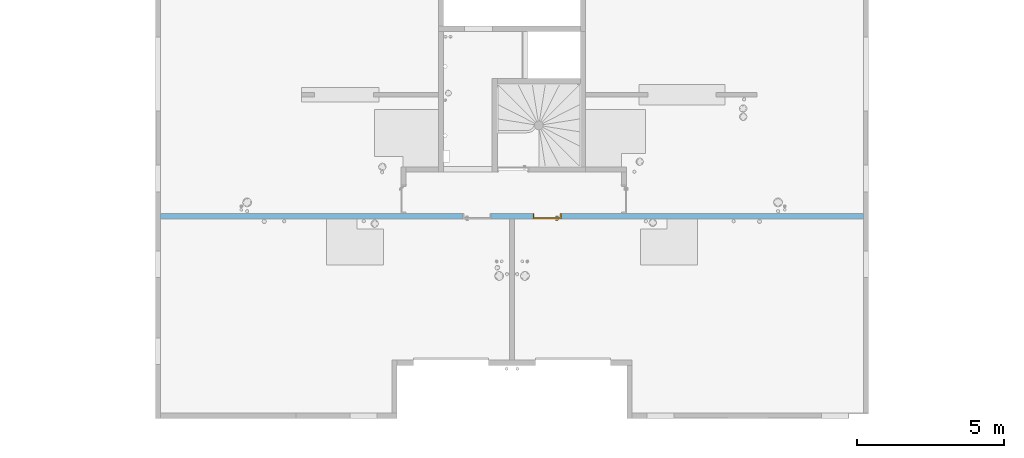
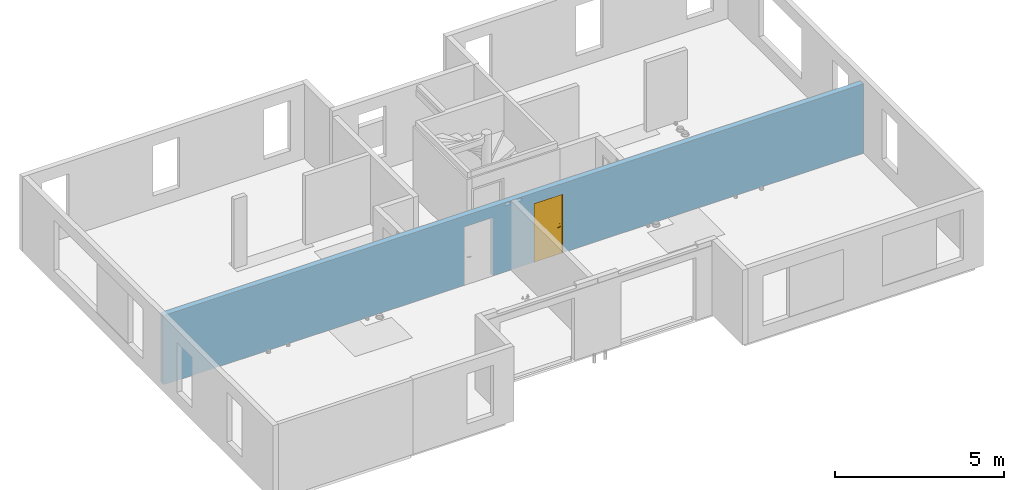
# One storey, part 9 of 24: 1 door, 6 openings, plus 1 element that does not belong to this part.
"""IFC2X3 building model written with IfcOpenShell, lengths in centimetres."""

from ifc_helpers import new_model, entity, si_unit, converted_unit, derived_unit, direction, frame, frame_2d, origin, place, context, subcontext, project, spatial, rectangle, extrude, faceted_brep, source, transform, mapped, material, material_list, layer, layer_set, layer_usage, type_object, type_shapes, element, fill, save


model = new_model("IFC2X3")

# Units and contexts
model_context = context("Model", 3, precision=0.001, world=origin(), true_north=direction((6.12303176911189e-17, 1.0)))
body_context = subcontext(model_context, "Body", "Model", "MODEL_VIEW")
ifc_project = project(units=[si_unit("LENGTHUNIT", "METRE", prefix="CENTI"), si_unit("AREAUNIT", "SQUARE_METRE"), si_unit("VOLUMEUNIT", "CUBIC_METRE"), converted_unit("PLANEANGLEUNIT", "DEGREE", entity("IfcRatioMeasure", 0.0174532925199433), si_unit("PLANEANGLEUNIT", "RADIAN"), dimensions=[0, 0, 0, 0, 0, 0, 0]), si_unit("MASSUNIT", "GRAM", prefix="KILO"), derived_unit("MASSDENSITYUNIT", [(si_unit("MASSUNIT", "GRAM", prefix="KILO"), 1), (si_unit("LENGTHUNIT", "METRE"), -3)]), si_unit("TIMEUNIT", "SECOND"), si_unit("FREQUENCYUNIT", "HERTZ"), si_unit("THERMODYNAMICTEMPERATUREUNIT", "DEGREE_CELSIUS"), derived_unit("THERMALTRANSMITTANCEUNIT", [(si_unit("MASSUNIT", "GRAM", prefix="KILO"), 1), (si_unit("THERMODYNAMICTEMPERATUREUNIT", "KELVIN"), -1), (si_unit("TIMEUNIT", "SECOND"), -3)]), derived_unit("VOLUMETRICFLOWRATEUNIT", [(si_unit("LENGTHUNIT", "METRE"), 3), (si_unit("TIMEUNIT", "SECOND"), -1)]), si_unit("ELECTRICCURRENTUNIT", "AMPERE"), si_unit("ELECTRICVOLTAGEUNIT", "VOLT"), si_unit("POWERUNIT", "WATT"), si_unit("FORCEUNIT", "NEWTON"), si_unit("ILLUMINANCEUNIT", "LUX"), si_unit("LUMINOUSFLUXUNIT", "LUMEN"), si_unit("LUMINOUSINTENSITYUNIT", "CANDELA"), derived_unit("USERDEFINED", [(si_unit("MASSUNIT", "GRAM", prefix="KILO"), -1), (si_unit("LENGTHUNIT", "METRE"), -2), (si_unit("TIMEUNIT", "SECOND"), 3), (si_unit("LUMINOUSFLUXUNIT", "LUMEN"), 1)]), derived_unit("LINEARVELOCITYUNIT", [(si_unit("LENGTHUNIT", "METRE"), 1), (si_unit("TIMEUNIT", "SECOND"), -1)]), si_unit("PRESSUREUNIT", "PASCAL"), derived_unit("USERDEFINED", [(si_unit("LENGTHUNIT", "METRE"), -2), (si_unit("MASSUNIT", "GRAM", prefix="KILO"), 1), (si_unit("TIMEUNIT", "SECOND"), -2)])], contexts=[model_context])

# Site, building, storey
site_placement = place(None, origin())
site = spatial("IfcSite", under=ifc_project, at=site_placement, Name="Default", CompositionType="ELEMENT")
building_placement = place(site_placement, origin())
building = spatial("IfcBuilding", under=site, at=building_placement, Name="CAGE 03", CompositionType="ELEMENT")
storey_placement = place(building_placement, frame((0.0, 0.0, 1150.0)))
storey = spatial("IfcBuildingStorey", under=building, at=storey_placement, Name="R+4", CompositionType="ELEMENT", Elevation=1150.0)

# Wall, openings, door
ifc_material_1 = material(Name="Béton, C25/30")
ifc_layer = layer(ifc_material_1, 18.0)
ifc_layer_set = layer_set([ifc_layer], Name="Mur de base:Voile BA 18")
ifc_layer_usage = layer_usage(ifc_layer_set, "AXIS2", "NEGATIVE", 9.0)
wall_type = type_object("IfcWallType", Name="Mur de base:Voile BA 18", PredefinedType="STANDARD", material=ifc_layer_set)
wall_placement = place(storey_placement, frame((5888.36582014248, 4483.6606660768, 0.0)))
wall = element("IfcWallStandardCase", 1, at=wall_placement, inside=storey, type_object=wall_type, material=ifc_layer_usage, Name="Mur de base:Voile BA 18", ObjectType="Mur de base:Voile BA 18", context=body_context, shape_type="SweptSolid", body=[
    extrude(rectangle(XDim=2385.99999999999, YDim=17.9999999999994, at=frame_2d((1193.0, -8.88178419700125e-16), x_axis=(-1.0, 0.0))), origin(), (0.0, 0.0, 1.0), 250.0),
])
opening_1_placement = place(wall_placement, origin())
element("IfcOpeningElement", 2, at=opening_1_placement, cuts=wall, Name="Mur de base:Voile BA 18", ObjectType="Opening", context=body_context, shape_type="SweptSolid", body=[
    extrude(rectangle(XDim=210.000000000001, YDim=18.0000000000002, at=frame_2d((4.33431068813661e-13, 0.0), x_axis=(0.0, 1.0))), frame((825.0, 9.0, 105.0), z_axis=(0.0, 1.0, 0.0), x_axis=(1.0, 0.0, 0.0)), (0.0, 0.0, 1.0), 96.9999999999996),
])
opening_2_placement = place(wall_placement, origin())
element("IfcOpeningElement", 3, at=opening_2_placement, cuts=wall, Name="Mur de base:Voile BA 18", ObjectType="Opening", context=body_context, shape_type="SweptSolid", body=[
    extrude(rectangle(XDim=210.000000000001, YDim=18.0000000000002, at=frame_2d((4.33431068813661e-13, 0.0), x_axis=(0.0, 1.0))), frame((1573.0, 9.0, 105.0), z_axis=(0.0, 1.0, 0.0), x_axis=(1.0, 0.0, 0.0)), (0.0, 0.0, 1.0), 96.9999999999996),
])
opening_3_placement = place(wall_placement, origin())
element("IfcOpeningElement", 4, at=opening_3_placement, cuts=wall, Name="Mur de base:Voile BA 18", ObjectType="Opening", context=body_context, shape_type="SweptSolid", body=[
    extrude(rectangle(XDim=10.0000000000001, YDim=19.9999999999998, at=frame_2d((4.33431068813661e-13, 1.08357767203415e-13), x_axis=(0.0, 1.0))), frame((1174.0, -9.0, 242.500000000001), z_axis=(0.0, 1.0, 0.0), x_axis=(1.0, 0.0, 0.0)), (0.0, 0.0, 1.0), 17.9999999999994),
])
opening_4_placement = place(wall_placement, origin())
element("IfcOpeningElement", 5, at=opening_4_placement, cuts=wall, Name="Mur de base:Voile BA 18", ObjectType="Opening", context=body_context, shape_type="SweptSolid", body=[
    extrude(rectangle(XDim=10.0000000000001, YDim=19.9999999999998, at=frame_2d((4.33431068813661e-13, 1.08357767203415e-13), x_axis=(0.0, 1.0))), frame((1212.0, -9.0, 242.500000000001), z_axis=(0.0, 1.0, 0.0), x_axis=(1.0, 0.0, 0.0)), (0.0, 0.0, 1.0), 17.9999999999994),
])
opening_5_placement = place(wall_placement, frame((1122.5, 9.0, 0.0)))
element("IfcOpeningElement", 6, at=opening_5_placement, cuts=wall, Name="Int. Simple:HB93:1", ObjectType="Opening", context=body_context, shape_type="SweptSolid", body=[
    extrude(rectangle(XDim=210.000000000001, YDim=96.9999999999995, at=frame_2d((105.000000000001, 48.4999999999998), x_axis=(1.0, 0.0))), frame((0.0, 0.0, 0.0), z_axis=(0.0, -1.0, 0.0), x_axis=(0.0, 0.0, 1.0)), (0.0, 0.0, 1.0), 18.0),
])
opening_6_placement = place(wall_placement, frame((1360.5, 9.0, 0.0)))
opening_6 = element("IfcOpeningElement", 7, at=opening_6_placement, cuts=wall, Name="Int. Simple:HB93:1", ObjectType="Opening", context=body_context, shape_type="SweptSolid", body=[
    extrude(rectangle(XDim=210.000000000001, YDim=96.9999999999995, at=frame_2d((105.000000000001, 48.4999999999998), x_axis=(1.0, 0.0))), frame((0.0, 0.0, 0.0), z_axis=(0.0, -1.0, 0.0), x_axis=(0.0, 0.0, 1.0)), (0.0, 0.0, 1.0), 18.0),
])
ifc_material_2 = material(Name="Finition Peinture - Blanc satiné")
ifc_material_3 = material(Name="Bois - Panneau de porte")
ifc_material_4 = material(Name="Bois - Cadre de porte")
ifc_material_list_1 = material_list([ifc_material_2, ifc_material_3, ifc_material_4])
ifc_material_list_2 = material_list([ifc_material_2, ifc_material_3, ifc_material_4])
door_style = type_object("IfcDoorStyle", Name="HB93", ConstructionType="NOTDEFINED", OperationType="SINGLE_SWING_RIGHT", ParameterTakesPrecedence=False, Sizeable=False, material=ifc_material_list_2)
shared_shape = source(origin(), body_context, "Body", "Brep", [
    faceted_brep([(96.5000000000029, -0.500000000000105, 87.0), (96.5000000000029, -0.500000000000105, 108.0), (95.535276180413, -0.500000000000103, 108.399601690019), (94.5000000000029, -0.500000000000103, 108.535898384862), (93.4647238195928, -0.500000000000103, 108.399601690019), (92.5000000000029, -0.500000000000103, 108.0), (92.5000000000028, -0.500000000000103, 87.0), (93.4647238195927, -0.500000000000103, 86.6003983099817), (94.5000000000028, -0.500000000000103, 86.464101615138), (95.5352761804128, -0.500000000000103, 86.6003983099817), (96.5000000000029, 0.0, 108.0), (96.5000000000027, 0.0, 87.0), (95.5352761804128, 0.0, 86.6003983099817), (94.5000000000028, 0.0, 86.464101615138), (93.4647238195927, 0.0, 86.6003983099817), (92.5000000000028, 0.0, 87.0), (92.5000000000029, 0.0, 108.0), (93.4647238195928, 0.0, 108.399601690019), (94.5000000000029, 0.0, 108.535898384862), (95.535276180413, 0.0, 108.399601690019)], [[[0, 1, 2, 3, 4, 5, 6, 7, 8, 9]], [[10, 11, 12, 13, 14, 15, 16, 17, 18, 19]], [[9, 12, 11, 0]], [[8, 13, 12, 9]], [[7, 14, 13, 8]], [[7, 6, 15, 14]], [[15, 6, 5, 16]], [[4, 17, 16, 5]], [[3, 18, 17, 4]], [[2, 19, 18, 3]], [[2, 1, 10, 19]], [[11, 10, 1, 0]]]),
    faceted_brep([(96.5000000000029, 4.0, 87.0), (96.5000000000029, 4.0, 108.0), (95.535276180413, 4.0, 108.399601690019), (94.5000000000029, 4.0, 108.535898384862), (93.4647238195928, 4.0, 108.399601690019), (92.500000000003, 4.0, 108.0), (92.5000000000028, 4.0, 87.0), (93.4647238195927, 4.0, 86.6003983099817), (94.5000000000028, 4.0, 86.464101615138), (95.5352761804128, 4.0, 86.6003983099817), (94.5000000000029, 4.49999999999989, 108.535898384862), (95.535276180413, 4.49999999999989, 108.399601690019), (96.5000000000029, 4.49999999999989, 108.0), (96.5000000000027, 4.49999999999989, 87.0), (95.5352761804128, 4.49999999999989, 86.6003983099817), (94.5000000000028, 4.49999999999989, 86.464101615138), (93.4647238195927, 4.49999999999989, 86.6003983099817), (92.5000000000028, 4.4999999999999, 87.0), (92.5000000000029, 4.4999999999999, 108.0), (93.4647238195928, 4.49999999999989, 108.399601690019)], [[[0, 1, 2, 3, 4, 5, 6, 7, 8, 9]], [[10, 11, 12, 13, 14, 15, 16, 17, 18, 19]], [[4, 19, 18, 5]], [[3, 10, 19, 4]], [[2, 11, 10, 3]], [[2, 1, 12, 11]], [[13, 12, 1, 0]], [[9, 14, 13, 0]], [[8, 15, 14, 9]], [[7, 16, 15, 8]], [[7, 6, 17, 16]], [[17, 6, 5, 18]]]),
    faceted_brep([(94.2974701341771, -0.500000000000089, 100.778044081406), (94.7025298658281, -0.500000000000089, 100.778044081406), (95.100000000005, -0.500000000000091, 100.699999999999), (95.100000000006, -0.500000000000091, 99.2999999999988), (94.7025298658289, -0.500000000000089, 99.221955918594), (94.297470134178, -0.500000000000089, 99.2219559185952), (93.9000000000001, -0.500000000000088, 99.3000000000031), (93.9000000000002, -0.500000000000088, 100.7), (94.7025298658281, -3.10045754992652, 100.778044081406), (95.1000000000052, -3.26509507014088, 100.7), (94.2974701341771, -2.93267631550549, 100.778044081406), (92.9298602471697, -4.30028620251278, 100.778044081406), (93.0976414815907, -4.70534593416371, 100.778044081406), (93.9000000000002, -2.76803879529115, 100.7), (93.9000000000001, -2.76803879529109, 99.3000000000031), (94.297470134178, -2.93267631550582, 99.2219559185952), (94.7025298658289, -3.10045754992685, 99.221955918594), (93.0976414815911, -4.70534593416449, 99.221955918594), (92.9298602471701, -4.30028620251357, 99.2219559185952), (95.100000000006, -3.26509507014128, 99.2999999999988), (93.2622790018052, -5.1028160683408, 100.7), (92.7652227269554, -3.90281606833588, 100.7), (92.7652227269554, -3.90281606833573, 99.3000000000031), (93.2622790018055, -5.10281606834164, 99.2999999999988), (84.4981359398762, -5.10281606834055, 100.7), (84.4981359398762, -4.70534593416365, 100.778044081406), (84.4981359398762, -4.30028620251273, 100.778044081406), (84.4981359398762, -3.90281606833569, 100.699999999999), (84.4981359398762, -3.90281606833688, 99.3000000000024), (84.4981359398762, -4.30028620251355, 99.2219559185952), (84.4981359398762, -4.70534593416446, 99.221955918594), (84.4981359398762, -5.10281606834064, 99.2999999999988), (88.7139980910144, -4.5028160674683, 100.78786867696), (89.2692302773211, -5.1028160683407, 100.7), (88.6316793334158, -3.90281606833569, 100.7), (88.631679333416, -3.90281606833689, 99.3000000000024), (88.7139981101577, -4.50281607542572, 99.2121313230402), (89.2692310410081, -5.10281606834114, 99.2999999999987)], [[[0, 1, 2, 3, 4, 5, 6, 7]], [[2, 1, 8, 9]], [[1, 0, 10, 11, 12, 8]], [[0, 7, 13, 10]], [[14, 13, 7, 6]], [[5, 15, 14, 6]], [[5, 4, 16, 17, 18, 15]], [[3, 19, 16, 4]], [[9, 19, 3, 2]], [[9, 8, 12, 20]], [[10, 13, 21, 11]], [[22, 21, 13, 14]], [[14, 15, 18, 22]], [[16, 19, 23, 17]], [[20, 23, 19, 9]], [[24, 25, 26, 27, 28, 29, 30, 31]], [[32, 25, 33]], [[33, 25, 24]], [[33, 20, 12]], [[11, 34, 32]], [[34, 11, 21]], [[27, 26, 34]], [[32, 26, 25]], [[32, 34, 26]], [[32, 33, 12]], [[11, 32, 12]], [[21, 22, 35, 28, 27, 34]], [[36, 29, 35]], [[30, 36, 37]], [[18, 35, 22]], [[29, 28, 35]], [[30, 37, 31]], [[37, 17, 23]], [[36, 17, 37]], [[36, 18, 17]], [[36, 35, 18]], [[29, 36, 30]], [[23, 20, 33, 24, 31, 37]]]),
    faceted_brep([(94.2974701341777, 4.49999999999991, 99.2219559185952), (94.7025298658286, 4.49999999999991, 99.221955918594), (95.1000000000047, 4.49999999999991, 99.2999999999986), (95.1000000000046, 4.49999999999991, 100.7), (94.7025298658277, 4.49999999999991, 100.778044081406), (94.2974701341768, 4.49999999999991, 100.778044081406), (93.8999999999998, 4.49999999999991, 100.7), (93.900000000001, 4.49999999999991, 99.3000000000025), (93.8999999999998, 6.7485204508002, 100.7), (93.8999999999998, 6.74852045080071, 99.3000000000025), (94.2974701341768, 6.91315797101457, 100.778044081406), (94.7025298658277, 7.0809392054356, 100.778044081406), (93.0838906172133, 8.69957845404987, 100.778044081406), (92.9161093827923, 8.29451872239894, 100.778044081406), (95.1000000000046, 7.24557672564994, 100.7), (95.1000000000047, 7.24557672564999, 99.2999999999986), (94.7025298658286, 7.08093920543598, 99.221955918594), (94.2974701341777, 6.91315797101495, 99.2219559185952), (92.9161093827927, 8.29451872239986, 99.2219559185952), (93.0838906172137, 8.69957845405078, 99.221955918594), (92.751471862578, 7.89704858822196, 100.7), (92.7514718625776, 7.89704858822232, 99.3000000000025), (93.2485281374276, 9.09704858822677, 100.7), (93.2485281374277, 9.09704858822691, 99.2999999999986), (84.4954216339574, 8.29451872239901, 100.778044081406), (84.4954216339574, 8.69957845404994, 100.778044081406), (84.4954216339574, 9.09704858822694, 100.7), (84.4954216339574, 9.09704858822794, 99.2999999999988), (84.4954216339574, 8.6995784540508, 99.221955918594), (84.4954216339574, 8.29451872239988, 99.2219559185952), (84.4954216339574, 7.89704858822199, 99.3000000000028), (84.4954216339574, 7.89704858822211, 100.7), (88.6234467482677, 7.89704858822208, 100.7), (88.6234479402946, 7.89704858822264, 99.3000000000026), (88.7057655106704, 8.49704858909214, 100.78786867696), (89.255479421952, 9.09704858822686, 100.7), (89.2554795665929, 9.09704858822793, 99.2999999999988), (88.7057654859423, 8.49704858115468, 99.2121313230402)], [[[0, 1, 2, 3, 4, 5, 6, 7]], [[8, 9, 7, 6]], [[5, 10, 8, 6]], [[5, 4, 11, 12, 13, 10]], [[3, 14, 11, 4]], [[14, 3, 2, 15]], [[2, 1, 16, 15]], [[1, 0, 17, 18, 19, 16]], [[0, 7, 9, 17]], [[20, 21, 9, 8]], [[8, 10, 13, 20]], [[14, 22, 12, 11]], [[23, 22, 14, 15]], [[15, 16, 19, 23]], [[17, 9, 21, 18]], [[24, 25, 26, 27, 28, 29, 30, 31]], [[21, 20, 32, 31, 30, 33]], [[34, 24, 32]], [[25, 34, 35]], [[13, 32, 20]], [[24, 31, 32]], [[25, 35, 26]], [[35, 12, 22]], [[34, 12, 35]], [[34, 13, 12]], [[34, 32, 13]], [[24, 34, 25]], [[22, 23, 36, 27, 26, 35]], [[37, 28, 36]], [[36, 28, 27]], [[36, 23, 19]], [[18, 33, 37]], [[33, 18, 21]], [[30, 29, 33]], [[37, 29, 28]], [[37, 33, 29]], [[37, 36, 19]], [[18, 37, 19]]]),
    faceted_brep([(100.500000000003, 4.0, 206.5), (100.500000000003, 4.0, 0.0), (10.5000000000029, 4.0, 0.0), (10.5000000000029, 4.0, 206.5), (100.500000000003, 0.0, 206.5), (10.5000000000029, 0.0, 206.5), (10.5000000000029, 0.0, 0.0), (100.500000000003, 0.0, 0.0)], [[[0, 1, 2, 3]], [[4, 5, 6, 7]], [[3, 5, 4, 0]], [[2, 6, 5, 3]], [[1, 7, 6, 2]], [[0, 4, 7, 1]]]),
    faceted_brep([(104.0, 0.0, 0.0), (100.500000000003, 0.0, 0.0), (100.500000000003, 4.0, 0.0), (99.0, 4.0, 0.0), (99.0, 18.0, 0.0), (104.0, 18.0, 0.0), (104.0, 18.0, 210.0), (104.0, 0.0, 210.0), (99.0, 18.0, 205.0), (12.0, 18.0, 205.0), (12.0, 18.0, 0.0), (7.0, 18.0, 0.0), (7.0, 18.0, 210.0), (99.0, 4.0, 205.0), (100.500000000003, 4.0, 206.5), (10.5000000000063, 4.0, 206.5), (10.5000000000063, 4.0, 0.0), (12.0, 4.0, 0.0), (12.0, 4.0, 205.0), (100.500000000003, 0.0, 206.5), (7.0, 0.0, 210.0), (7.0, 0.0, 0.0), (10.5000000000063, 0.0, 0.0), (10.5000000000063, 0.0, 206.5)], [[[0, 1, 2, 3, 4, 5]], [[5, 6, 7, 0]], [[4, 8, 9, 10, 11, 12, 6, 5]], [[3, 13, 8, 4]], [[2, 14, 15, 16, 17, 18, 13, 3]], [[1, 19, 14, 2]], [[0, 7, 20, 21, 22, 23, 19, 1]], [[12, 11, 21, 20]], [[21, 11, 10, 17, 16, 22]], [[18, 17, 10, 9]], [[23, 22, 16, 15]], [[6, 12, 20, 7]], [[13, 18, 9, 8]], [[19, 23, 15, 14]]]),
    faceted_brep([(102.500000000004, 18.0, 0.0), (102.500000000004, 18.5000000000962, 0.0), (105.500000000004, 18.5000000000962, 0.0), (105.500000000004, 18.0, 0.0), (105.500000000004, 18.0, 211.500000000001), (5.50000000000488, 18.0, 211.500000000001), (5.50000000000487, 18.0, 0.0), (8.50000000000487, 18.0, 0.0), (8.50000000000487, 18.0, 208.500000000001), (102.500000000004, 18.0, 208.500000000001), (105.500000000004, 18.5000000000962, 211.500000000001), (102.500000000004, 18.5000000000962, 208.500000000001), (8.50000000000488, 18.5000000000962, 208.500000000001), (8.50000000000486, 18.5000000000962, 0.0), (5.50000000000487, 18.5000000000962, 0.0), (5.50000000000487, 18.5000000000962, 211.500000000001)], [[[0, 1, 2, 3]], [[3, 4, 5, 6, 7, 8, 9, 0]], [[2, 10, 4, 3]], [[1, 11, 12, 13, 14, 15, 10, 2]], [[0, 9, 11, 1]], [[7, 6, 14, 13]], [[8, 7, 13, 12]], [[15, 14, 6, 5]], [[10, 15, 5, 4]], [[9, 8, 12, 11]]]),
    faceted_brep([(105.500000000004, -0.5, 0.0), (105.500000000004, -0.5, 211.500000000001), (5.50000000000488, -0.5, 211.500000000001), (5.50000000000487, -0.5, 0.0), (8.50000000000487, -0.5, 0.0), (8.50000000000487, -0.5, 208.500000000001), (102.500000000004, -0.5, 208.500000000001), (102.500000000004, -0.5, 0.0), (105.500000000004, 0.0, 0.0), (105.500000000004, 0.0, 211.500000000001), (102.500000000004, 0.0, 0.0), (102.500000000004, 0.0, 208.500000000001), (8.50000000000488, 0.0, 208.500000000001), (8.50000000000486, 0.0, 0.0), (5.50000000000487, 0.0, 0.0), (5.50000000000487, 0.0, 211.500000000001)], [[[0, 1, 2, 3, 4, 5, 6, 7]], [[8, 9, 1, 0]], [[10, 11, 12, 13, 14, 15, 9, 8]], [[7, 6, 11, 10]], [[5, 4, 13, 12]], [[15, 14, 3, 2]], [[9, 15, 2, 1]], [[6, 5, 12, 11]], [[4, 3, 14, 13]], [[7, 10, 8, 0]]]),
])
type_shapes(door_style, [shared_shape])
door_placement = place(opening_6_placement, frame((-104.0, -18.0, 0.0)))
door = element("IfcDoor", 8, at=door_placement, inside=storey, type_object=door_style, material=ifc_material_list_1, Name="Int. Simple:HB93", ObjectType="HB93", OverallHeight=210.000000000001, OverallWidth=96.9999999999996, context=body_context, shape_type="MappedRepresentation", body=[
    mapped(shared_shape, transform((0.0, 0.0, 0.0), scale=1.0)),
])
fill(opening_6, door)

save(model, "model.ifc")
